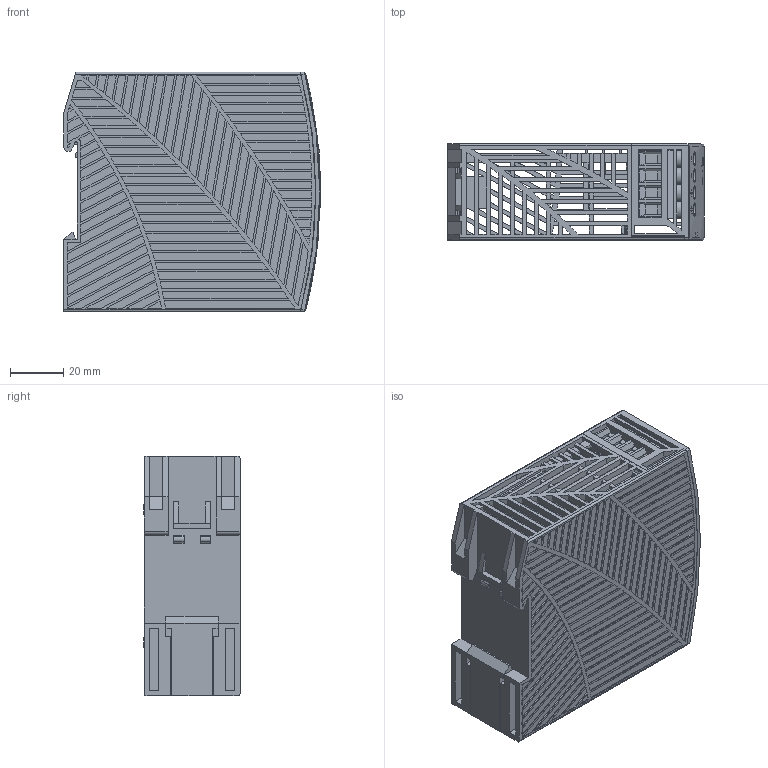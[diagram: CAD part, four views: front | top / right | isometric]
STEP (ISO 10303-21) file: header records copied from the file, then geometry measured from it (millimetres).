
FILE_DESCRIPTION(/* description */ (''),/* implementation_level */ '2;1');
FILE_NAME(/* name */ 'L:\MKT-GER\Neue Webdokumente\Daten von KO\Internet\PIC90.245M (AN-449.01)\md3_pic90_241m.stp',/* time_stamp */ '2018-03-23T11:11:47+01:00',/* author */ ('rahns'),/* organization */ (''),/* preprocessor_version */ 'ST-DEVELOPER v17',/* originating_system */ 'Autodesk Inventor 2018',/* authorisation */ '');
FILE_SCHEMA (('CONFIG_CONTROL_DESIGN'));
Products named in the file (9): 449.01; HOUSING BODY 449.00.; HOUSING COVER 449.01; FRONTFOIL 449.01; MKT_LP3BK-D2; MKT_LP4BK-L-D2; MKT_LED2 GN; MKT_POTI; SLIDER 449.00
Assembly tree (8 placements, depth 2):
  449.01
    HOUSING BODY 449.00.
    HOUSING COVER 449.01
    FRONTFOIL 449.01
    MKT_LP3BK-D2
    MKT_LP4BK-L-D2
    MKT_LED2 GN
    MKT_POTI
    SLIDER 449.00
Bounding box: 96.45 x 36.05 x 90 mm (x, y, z)
Volume: 51996.2 mm3; surface area: 74652.9 mm2
Topology: 8 solids, 9 shells, 2277 faces, 6249 edges, 4138 vertices
Faces by surface type: plane 1669, cylinder 372, bspline 205, cone 30, sphere 1
Full cylindrical faces by diameter (mm): 0.3 x1, 0.5 x3, 3 x5, 3.5 x1, 3.8 x1, 5.05 x4, 5.15 x3, 5.2 x4, 5.5 x8
Entity records: 89042 total; most frequent: CARTESIAN_POINT 30656, ORIENTED_EDGE 12490, DIRECTION 10890, EDGE_CURVE 6245, LINE 4642, VECTOR 4642, VERTEX_POINT 4138, AXIS2_PLACEMENT_3D 3124
